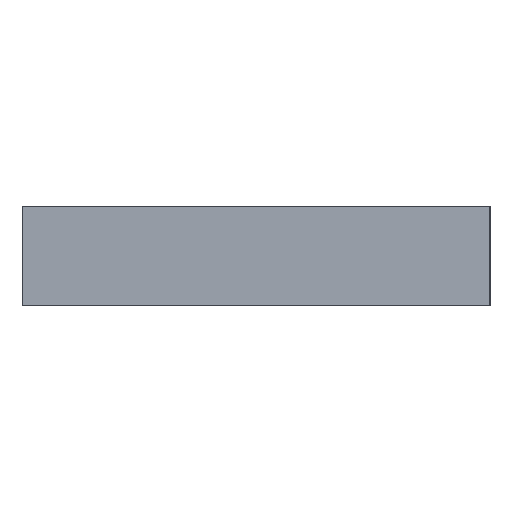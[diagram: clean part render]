
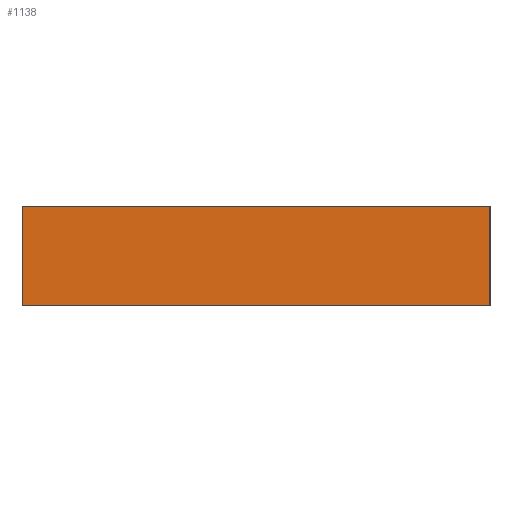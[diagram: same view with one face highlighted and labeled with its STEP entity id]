
A CAD part, left-side view. The second image highlights one B-rep face of the part: STEP entity #1138.
In plain terms, the highlighted planar face has unit normal (-1, 0, 0).
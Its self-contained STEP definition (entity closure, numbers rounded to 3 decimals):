
#44 = PLANE('',#45);
#45 = AXIS2_PLACEMENT_3D('',#46,#47,#48);
#46 = CARTESIAN_POINT('',(32.175,66.,12.3));
#47 = DIRECTION('',(0.,0.,1.));
#48 = DIRECTION('',(1.,0.,0.));
#100 = PLANE('',#101);
#101 = AXIS2_PLACEMENT_3D('',#102,#103,#104);
#102 = CARTESIAN_POINT('',(32.175,66.,10.3));
#103 = DIRECTION('',(-0.,-0.,-1.));
#104 = DIRECTION('',(-1.,0.,0.));
#139 = EDGE_CURVE('',#140,#142,#144,.T.);
#140 = VERTEX_POINT('',#141);
#141 = CARTESIAN_POINT('',(16.8,61.3,12.3));
#142 = VERTEX_POINT('',#143);
#143 = CARTESIAN_POINT('',(16.8,70.7,12.3));
#144 = SURFACE_CURVE('',#145,(#149,#156),.PCURVE_S1.);
#145 = LINE('',#146,#147);
#146 = CARTESIAN_POINT('',(16.8,61.3,12.3));
#147 = VECTOR('',#148,1.);
#148 = DIRECTION('',(0.,1.,0.));
#149 = PCURVE('',#44,#150);
#150 = DEFINITIONAL_REPRESENTATION('',(#151),#155);
#151 = LINE('',#152,#153);
#152 = CARTESIAN_POINT('',(-15.375,-4.7));
#153 = VECTOR('',#154,1.);
#154 = DIRECTION('',(0.,1.));
#155 = ( GEOMETRIC_REPRESENTATION_CONTEXT(2) 
PARAMETRIC_REPRESENTATION_CONTEXT() REPRESENTATION_CONTEXT('2D SPACE',''
  ) );
#156 = PCURVE('',#157,#162);
#157 = PLANE('',#158);
#158 = AXIS2_PLACEMENT_3D('',#159,#160,#161);
#159 = CARTESIAN_POINT('',(16.8,61.3,10.3));
#160 = DIRECTION('',(1.,0.,0.));
#161 = DIRECTION('',(0.,0.,1.));
#162 = DEFINITIONAL_REPRESENTATION('',(#163),#167);
#163 = LINE('',#164,#165);
#164 = CARTESIAN_POINT('',(2.,0.));
#165 = VECTOR('',#166,1.);
#166 = DIRECTION('',(0.,-1.));
#167 = ( GEOMETRIC_REPRESENTATION_CONTEXT(2) 
PARAMETRIC_REPRESENTATION_CONTEXT() REPRESENTATION_CONTEXT('2D SPACE',''
  ) );
#185 = PLANE('',#186);
#186 = AXIS2_PLACEMENT_3D('',#187,#188,#189);
#187 = CARTESIAN_POINT('',(31.15,61.3,11.3));
#188 = DIRECTION('',(-0.,-1.,-0.));
#189 = DIRECTION('',(0.,0.,-1.));
#363 = PLANE('',#364);
#364 = AXIS2_PLACEMENT_3D('',#365,#366,#367);
#365 = CARTESIAN_POINT('',(31.15,70.7,11.3));
#366 = DIRECTION('',(0.,1.,0.));
#367 = DIRECTION('',(0.,0.,1.));
#705 = VERTEX_POINT('',#706);
#706 = CARTESIAN_POINT('',(16.8,61.3,10.3));
#729 = EDGE_CURVE('',#705,#730,#732,.T.);
#730 = VERTEX_POINT('',#731);
#731 = CARTESIAN_POINT('',(16.8,70.7,10.3));
#732 = SURFACE_CURVE('',#733,(#737,#744),.PCURVE_S1.);
#733 = LINE('',#734,#735);
#734 = CARTESIAN_POINT('',(16.8,61.3,10.3));
#735 = VECTOR('',#736,1.);
#736 = DIRECTION('',(0.,1.,0.));
#737 = PCURVE('',#100,#738);
#738 = DEFINITIONAL_REPRESENTATION('',(#739),#743);
#739 = LINE('',#740,#741);
#740 = CARTESIAN_POINT('',(15.375,-4.7));
#741 = VECTOR('',#742,1.);
#742 = DIRECTION('',(0.,1.));
#743 = ( GEOMETRIC_REPRESENTATION_CONTEXT(2) 
PARAMETRIC_REPRESENTATION_CONTEXT() REPRESENTATION_CONTEXT('2D SPACE',''
  ) );
#744 = PCURVE('',#157,#745);
#745 = DEFINITIONAL_REPRESENTATION('',(#746),#750);
#746 = LINE('',#747,#748);
#747 = CARTESIAN_POINT('',(0.,0.));
#748 = VECTOR('',#749,1.);
#749 = DIRECTION('',(0.,-1.));
#750 = ( GEOMETRIC_REPRESENTATION_CONTEXT(2) 
PARAMETRIC_REPRESENTATION_CONTEXT() REPRESENTATION_CONTEXT('2D SPACE',''
  ) );
#1138 = ADVANCED_FACE('',(#1139),#157,.F.);
#1139 = FACE_BOUND('',#1140,.F.);
#1140 = EDGE_LOOP('',(#1141,#1162,#1163,#1184));
#1141 = ORIENTED_EDGE('',*,*,#1142,.F.);
#1142 = EDGE_CURVE('',#705,#140,#1143,.T.);
#1143 = SURFACE_CURVE('',#1144,(#1148,#1155),.PCURVE_S1.);
#1144 = LINE('',#1145,#1146);
#1145 = CARTESIAN_POINT('',(16.8,61.3,10.3));
#1146 = VECTOR('',#1147,1.);
#1147 = DIRECTION('',(0.,0.,1.));
#1148 = PCURVE('',#157,#1149);
#1149 = DEFINITIONAL_REPRESENTATION('',(#1150),#1154);
#1150 = LINE('',#1151,#1152);
#1151 = CARTESIAN_POINT('',(0.,0.));
#1152 = VECTOR('',#1153,1.);
#1153 = DIRECTION('',(1.,0.));
#1154 = ( GEOMETRIC_REPRESENTATION_CONTEXT(2) 
PARAMETRIC_REPRESENTATION_CONTEXT() REPRESENTATION_CONTEXT('2D SPACE',''
  ) );
#1155 = PCURVE('',#185,#1156);
#1156 = DEFINITIONAL_REPRESENTATION('',(#1157),#1161);
#1157 = LINE('',#1158,#1159);
#1158 = CARTESIAN_POINT('',(1.,-14.35));
#1159 = VECTOR('',#1160,1.);
#1160 = DIRECTION('',(-1.,0.));
#1161 = ( GEOMETRIC_REPRESENTATION_CONTEXT(2) 
PARAMETRIC_REPRESENTATION_CONTEXT() REPRESENTATION_CONTEXT('2D SPACE',''
  ) );
#1162 = ORIENTED_EDGE('',*,*,#729,.T.);
#1163 = ORIENTED_EDGE('',*,*,#1164,.T.);
#1164 = EDGE_CURVE('',#730,#142,#1165,.T.);
#1165 = SURFACE_CURVE('',#1166,(#1170,#1177),.PCURVE_S1.);
#1166 = LINE('',#1167,#1168);
#1167 = CARTESIAN_POINT('',(16.8,70.7,10.3));
#1168 = VECTOR('',#1169,1.);
#1169 = DIRECTION('',(0.,0.,1.));
#1170 = PCURVE('',#157,#1171);
#1171 = DEFINITIONAL_REPRESENTATION('',(#1172),#1176);
#1172 = LINE('',#1173,#1174);
#1173 = CARTESIAN_POINT('',(0.,-9.4));
#1174 = VECTOR('',#1175,1.);
#1175 = DIRECTION('',(1.,0.));
#1176 = ( GEOMETRIC_REPRESENTATION_CONTEXT(2) 
PARAMETRIC_REPRESENTATION_CONTEXT() REPRESENTATION_CONTEXT('2D SPACE',''
  ) );
#1177 = PCURVE('',#363,#1178);
#1178 = DEFINITIONAL_REPRESENTATION('',(#1179),#1183);
#1179 = LINE('',#1180,#1181);
#1180 = CARTESIAN_POINT('',(-1.,-14.35));
#1181 = VECTOR('',#1182,1.);
#1182 = DIRECTION('',(1.,0.));
#1183 = ( GEOMETRIC_REPRESENTATION_CONTEXT(2) 
PARAMETRIC_REPRESENTATION_CONTEXT() REPRESENTATION_CONTEXT('2D SPACE',''
  ) );
#1184 = ORIENTED_EDGE('',*,*,#139,.F.);
